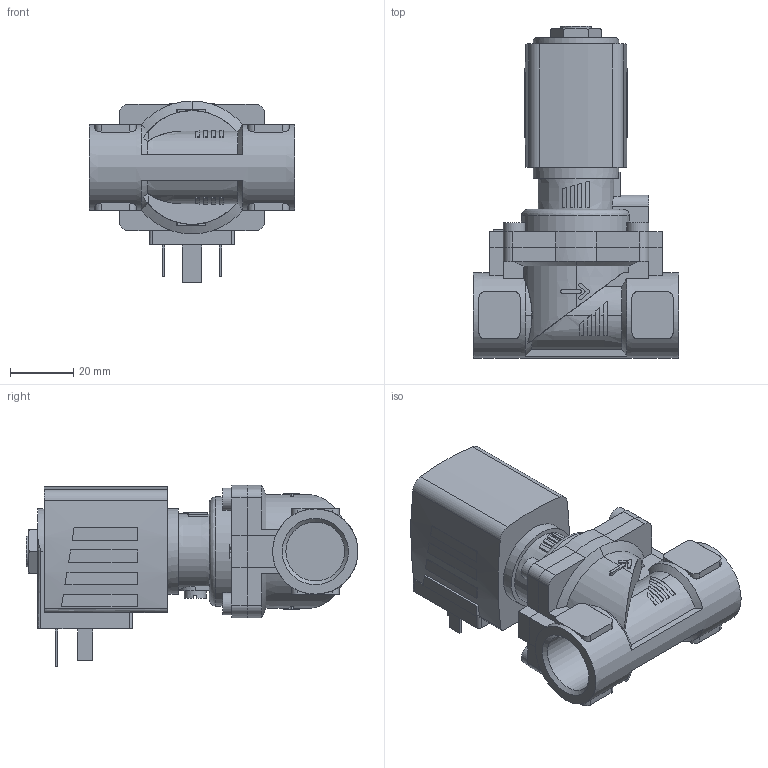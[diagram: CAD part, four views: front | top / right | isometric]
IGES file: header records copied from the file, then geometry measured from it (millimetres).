
Start section: Data from Parasolid IGES Translator 26.0.171, Copyright(c) 2006 Siemens PLM Software. All Rights Reserved.
Global section: file name: 6281-340038-2_2-Way_Solenoid_Valve__Servo-assisted__General_Purpose.igs; native system: By Siemens PLM Incorporated; preprocessor: XPlus GENERIC/IGES 26.0.171; author: Noname; organization: Noname; date: 20240621.180003; units: millimetre
Bounding box: 65 x 105 x 57.5 mm (x, y, z)
Surface area: 29444.3 mm2 (no closed solid volume)
Topology: 0 solids, 0 shells, 378 faces, 1958 edges, 1942 vertices
Faces by surface type: extrusion 247, revolution 131
